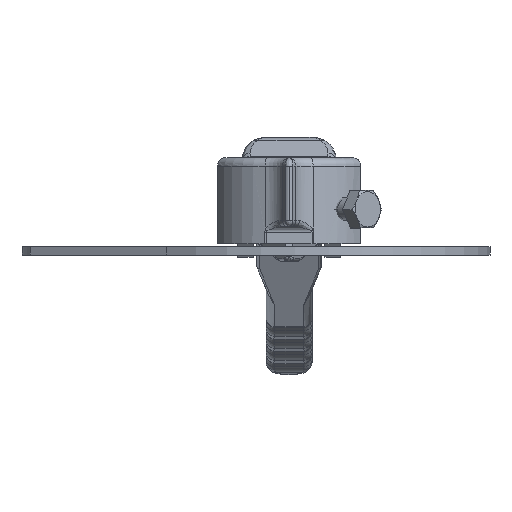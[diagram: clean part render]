
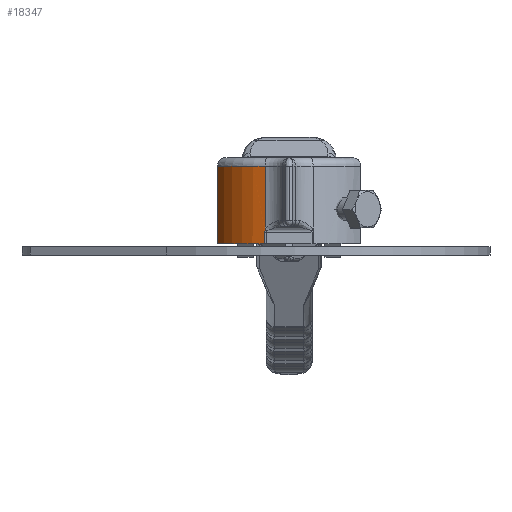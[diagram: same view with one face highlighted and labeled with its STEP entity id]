
A CAD part, left-side view. The second image highlights one B-rep face of the part: STEP entity #18347.
In plain terms, the highlighted cylindrical face has radius 27.5 mm (diameter 55 mm), a partial arc.
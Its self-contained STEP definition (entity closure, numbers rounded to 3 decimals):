
#800 = CARTESIAN_POINT ( 'NONE',  ( -26.119, 8.606, 4. ) ) ;
#1853 = CYLINDRICAL_SURFACE ( 'NONE', #2888, 27.5 ) ;
#2359 = CARTESIAN_POINT ( 'NONE',  ( -26.126, 8.585, 4.262 ) ) ;
#2427 = CARTESIAN_POINT ( 'NONE',  ( -26.194, 8.376, 4.742 ) ) ;
#2554 = CARTESIAN_POINT ( 'NONE',  ( -26.194, 8.376, 37. ) ) ;
#2888 = AXIS2_PLACEMENT_3D ( 'NONE', #6624, #10255, #20475 ) ;
#3053 = VECTOR ( 'NONE', #12108, 1000. ) ;
#3374 = CARTESIAN_POINT ( 'NONE',  ( -26.194, 8.376, 4.742 ) ) ;
#3616 = VERTEX_POINT ( 'NONE', #13827 ) ;
#3811 = CARTESIAN_POINT ( 'NONE',  ( -26.119, 8.606, 37. ) ) ;
#4194 = EDGE_LOOP ( 'NONE', ( #6078, #14261, #9645, #4869, #11485, #10024 ) ) ;
#4332 = VERTEX_POINT ( 'NONE', #3374 ) ;
#4352 = CARTESIAN_POINT ( 'NONE',  ( -26.119, 8.606, 4. ) ) ;
#4734 = CARTESIAN_POINT ( 'NONE',  ( -26.119, 8.606, 0. ) ) ;
#4869 = ORIENTED_EDGE ( 'NONE', *, *, #6233, .F. ) ;
#4924 = LINE ( 'NONE', #3811, #3053 ) ;
#6078 = ORIENTED_EDGE ( 'NONE', *, *, #15147, .T. ) ;
#6233 = EDGE_CURVE ( 'NONE', #11552, #4332, #21902, .T. ) ;
#6624 = CARTESIAN_POINT ( 'NONE',  ( 0., 0., 37. ) ) ;
#8375 = VERTEX_POINT ( 'NONE', #4734 ) ;
#9057 = FACE_OUTER_BOUND ( 'NONE', #4194, .T. ) ;
#9645 = ORIENTED_EDGE ( 'NONE', *, *, #10669, .T. ) ;
#10024 = ORIENTED_EDGE ( 'NONE', *, *, #15264, .T. ) ;
#10255 = DIRECTION ( 'NONE',  ( 0., 0., -1. ) ) ;
#10381 = CIRCLE ( 'NONE', #19708, 27.5 ) ;
#10492 = EDGE_CURVE ( 'NONE', #8375, #21338, #4924, .T. ) ;
#10669 = EDGE_CURVE ( 'NONE', #21338, #4332, #19796, .T. ) ;
#11244 = LINE ( 'NONE', #17672, #17413 ) ;
#11485 = ORIENTED_EDGE ( 'NONE', *, *, #18764, .T. ) ;
#11552 = VERTEX_POINT ( 'NONE', #11771 ) ;
#11627 = DIRECTION ( 'NONE',  ( -1., 0., 0. ) ) ;
#11771 = CARTESIAN_POINT ( 'NONE',  ( -26.194, 8.376, 27. ) ) ;
#12108 = DIRECTION ( 'NONE',  ( 0., 0., 1. ) ) ;
#12157 = CIRCLE ( 'NONE', #12553, 27.5 ) ;
#12553 = AXIS2_PLACEMENT_3D ( 'NONE', #17161, #13760, #14363 ) ;
#12626 = CARTESIAN_POINT ( 'NONE',  ( -26.171, 8.446, 4.632 ) ) ;
#13215 = DIRECTION ( 'NONE',  ( 0., 0., -1. ) ) ;
#13760 = DIRECTION ( 'NONE',  ( 0., 0., 1. ) ) ;
#13827 = CARTESIAN_POINT ( 'NONE',  ( -11.456, 25., 0. ) ) ;
#14261 = ORIENTED_EDGE ( 'NONE', *, *, #10492, .T. ) ;
#14363 = DIRECTION ( 'NONE',  ( 1., 0., 0. ) ) ;
#14985 = CARTESIAN_POINT ( 'NONE',  ( 0., 0., 27. ) ) ;
#15147 = EDGE_CURVE ( 'NONE', #3616, #8375, #12157, .T. ) ;
#15264 = EDGE_CURVE ( 'NONE', #15556, #3616, #11244, .T. ) ;
#15556 = VERTEX_POINT ( 'NONE', #21764 ) ;
#15879 = DIRECTION ( 'NONE',  ( 0., 0., -1. ) ) ;
#17161 = CARTESIAN_POINT ( 'NONE',  ( 0., 0., 0. ) ) ;
#17413 = VECTOR ( 'NONE', #15879, 1000. ) ;
#17672 = CARTESIAN_POINT ( 'NONE',  ( -11.456, 25., 37. ) ) ;
#17705 = CARTESIAN_POINT ( 'NONE',  ( -26.119, 8.606, 4.134 ) ) ;
#18276 = DIRECTION ( 'NONE',  ( 0., 0., -1. ) ) ;
#18347 = ADVANCED_FACE ( 'NONE', ( #9057 ), #1853, .T. ) ;
#18708 = VECTOR ( 'NONE', #13215, 1000. ) ;
#18764 = EDGE_CURVE ( 'NONE', #11552, #15556, #10381, .T. ) ;
#19708 = AXIS2_PLACEMENT_3D ( 'NONE', #14985, #18276, #11627 ) ;
#19796 = B_SPLINE_CURVE_WITH_KNOTS ( 'NONE', 3,
 ( #800, #17705, #2359, #21361, #12626, #2427 ),
 .UNSPECIFIED., .F., .F.,
 ( 4, 2, 4 ),
 ( 0., 0., 0.001 ),
 .UNSPECIFIED. ) ;
#20475 = DIRECTION ( 'NONE',  ( -1., 0., 0. ) ) ;
#21338 = VERTEX_POINT ( 'NONE', #4352 ) ;
#21361 = CARTESIAN_POINT ( 'NONE',  ( -26.152, 8.504, 4.512 ) ) ;
#21764 = CARTESIAN_POINT ( 'NONE',  ( -11.456, 25., 27. ) ) ;
#21902 = LINE ( 'NONE', #2554, #18708 ) ;
